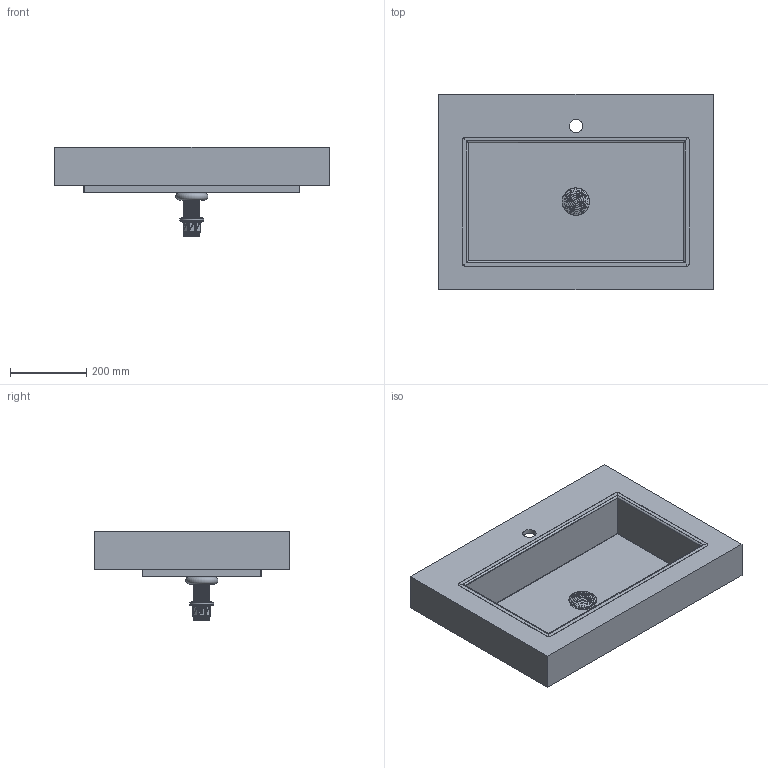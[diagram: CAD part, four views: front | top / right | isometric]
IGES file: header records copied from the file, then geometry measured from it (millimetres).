
Start section: Data from Parasolid IGES Translator 19.0.9, Copyright(c) 2006 Siemens PL M Software. All Rights Reserved.
Global section: file name: noorth-top-H 10 D 51,3 W 72_6557.igs; native system: By Siemens PLM Incorporated; preprocessor: XPlus GENERIC/IGES 19.0.9; author: Noname; organization: Noname; date: 20200603.105745; units: metre
Bounding box: 720 x 512 x 235.2 mm (x, y, z)
Volume: 4186480.7 mm3; surface area: 1577237 mm2
Topology: 2 solids, 2 shells, 11736 faces, 35129 edges, 35015 vertices
Faces by surface type: extrusion 11618, plane 64, cylinder 28, bspline 20, torus 4, cone 2
Full cylindrical faces by diameter (mm): 34.9 x1, 42 x1, 46 x1, 47.6 x1
